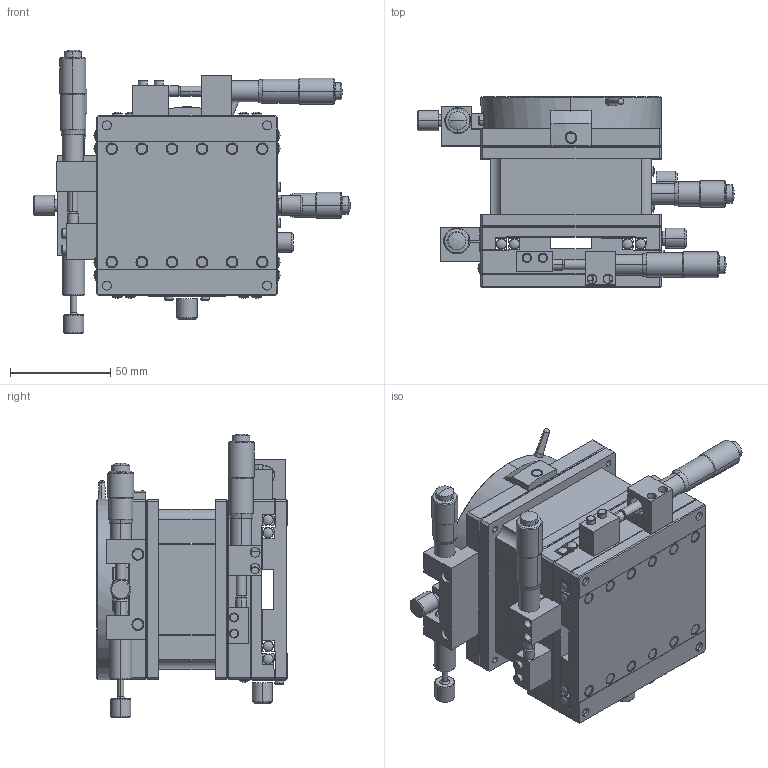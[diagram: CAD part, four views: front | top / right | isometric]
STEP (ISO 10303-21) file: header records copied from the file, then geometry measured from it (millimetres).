
FILE_DESCRIPTION (( 'STEP AP214' ), '1' );
FILE_NAME ('LD90-R.STEP', '2022-09-12T09:24:46', ( '' ), ( '' ), 'SwSTEP 2.0', 'SolidWorks 2017', '' );
FILE_SCHEMA (( 'AUTOMOTIVE_DESIGN' ));
Length unit declared in the file: millimetre
Products named in the file (1): LD90-R
Bounding box: 158 x 95 x 141.43 mm (x, y, z)
Surface area: 146295.4 mm2 (no closed solid volume)
Topology: 0 solids, 38 shells, 726 faces, 2119 edges, 1434 vertices
Faces by surface type: plane 328, cylinder 258, cone 83, torus 26, sphere 20, bspline 11
Full cylindrical faces by diameter (mm): 5 x6
Entity records: 35331 total; most frequent: CARTESIAN_POINT 16534, DIRECTION 3758, ORIENTED_EDGE 3690, EDGE_CURVE 2107, VERTEX_POINT 1434, AXIS2_PLACEMENT_3D 1265, VECTOR 1228, LINE 1228
